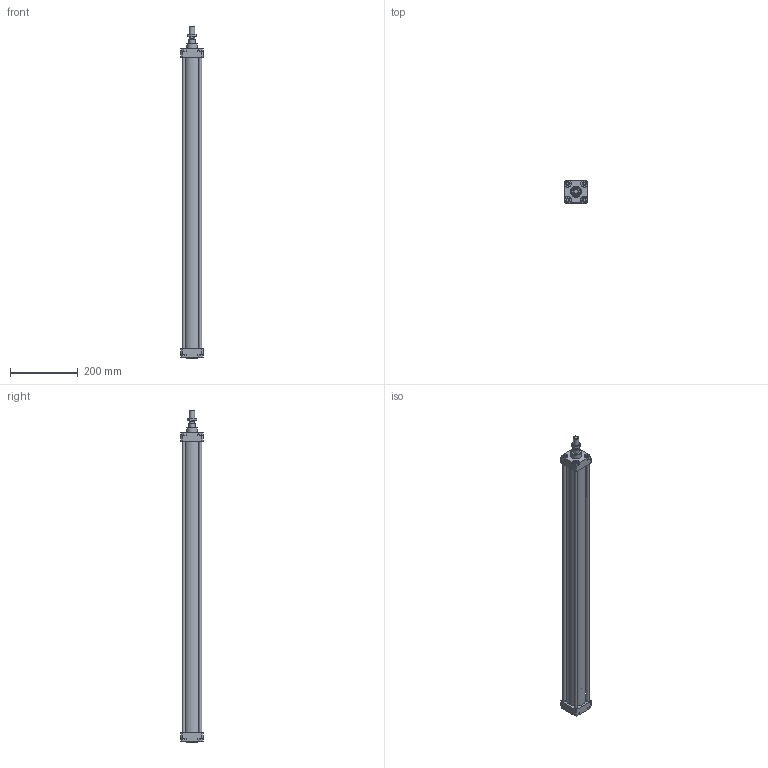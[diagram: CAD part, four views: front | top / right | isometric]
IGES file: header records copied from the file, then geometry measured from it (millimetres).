
Global section: file name: 130#_050_0800_01A; native system: Autodesk Inventor 2014; preprocessor: unknown; author: A. Manieri; date: 20161123.145555; units: millimetre
Bounding box: 65 x 65 x 979 mm (x, y, z)
Volume: 982879.8 mm3; surface area: 477151.3 mm2
Topology: 9 solids, 9 shells, 163 faces, 401 edges, 268 vertices
Faces by surface type: bspline 163
